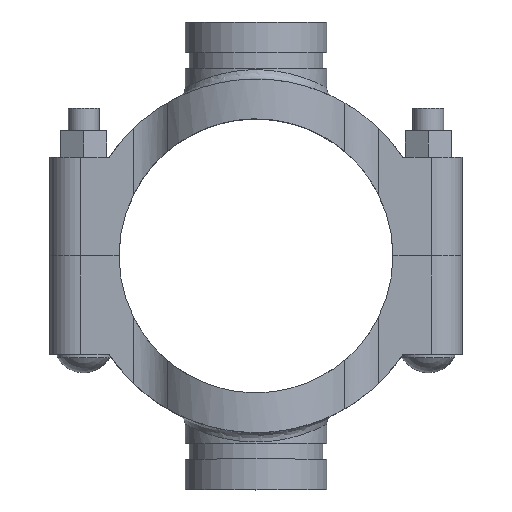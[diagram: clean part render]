
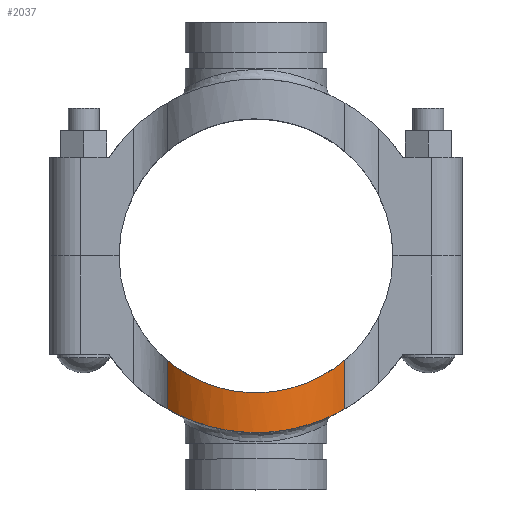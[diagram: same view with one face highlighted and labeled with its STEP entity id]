
A CAD part, top view. The second image highlights one B-rep face of the part: STEP entity #2037.
In plain terms, the highlighted cylindrical face has radius 58.801 mm (diameter 117.602 mm), a partial arc.
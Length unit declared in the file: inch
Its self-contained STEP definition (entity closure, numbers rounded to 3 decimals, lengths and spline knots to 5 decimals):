
#46=B_SPLINE_CURVE_WITH_KNOTS('',3,(#3913,#3914,#3915,#3916,#3917,#3918,
#3919,#3920,#3921,#3922,#3923,#3924,#3925,#3926,#3927,#3928,#3929,#3930,
#3931,#3932,#3933,#3934),.UNSPECIFIED.,.F.,.F.,(4,2,2,2,2,2,2,2,2,2,4),
(22.35652,23.01423,24.15853,25.30282,26.44711,
27.59141,28.7357,29.88,31.02429,32.16859,
32.8263),.UNSPECIFIED.);
#57=B_SPLINE_CURVE_WITH_KNOTS('',3,(#4241,#4242,#4243,#4244,#4245,#4246,
#4247,#4248,#4249,#4250,#4251,#4252,#4253,#4254,#4255,#4256,#4257,#4258,
#4259,#4260,#4261,#4262),.UNSPECIFIED.,.F.,.F.,(4,2,2,2,2,2,2,2,2,2,4),
(4.19691,4.89556,6.07013,7.24471,8.41929,
9.59386,10.76844,11.94301,13.11759,14.29216,
14.99081),.UNSPECIFIED.);
#107=CYLINDRICAL_SURFACE('',#2297,2.315);
#235=FACE_OUTER_BOUND('',#367,.T.);
#367=EDGE_LOOP('',(#1731,#1732,#1733,#1734));
#518=LINE('',#4333,#668);
#519=LINE('',#4335,#669);
#668=VECTOR('',#2828,0.3937);
#669=VECTOR('',#2831,0.3937);
#889=VERTEX_POINT('',#3899);
#890=VERTEX_POINT('',#3912);
#933=VERTEX_POINT('',#4227);
#934=VERTEX_POINT('',#4240);
#1130=EDGE_CURVE('',#890,#889,#46,.T.);
#1187=EDGE_CURVE('',#934,#933,#57,.T.);
#1218=EDGE_CURVE('',#933,#890,#518,.T.);
#1219=EDGE_CURVE('',#934,#889,#519,.T.);
#1731=ORIENTED_EDGE('',*,*,#1187,.T.);
#1732=ORIENTED_EDGE('',*,*,#1218,.T.);
#1733=ORIENTED_EDGE('',*,*,#1130,.T.);
#1734=ORIENTED_EDGE('',*,*,#1219,.F.);
#2037=ADVANCED_FACE('',(#235),#107,.T.);
#2297=AXIS2_PLACEMENT_3D('',#4334,#2829,#2830);
#2828=DIRECTION('',(0.,1.,0.));
#2829=DIRECTION('center_axis',(0.,1.,0.));
#2830=DIRECTION('ref_axis',(-0.779,0.,0.628));
#2831=DIRECTION('',(0.,1.,0.));
#3899=CARTESIAN_POINT('',(-1.80242,3.10474,1.45276));
#3912=CARTESIAN_POINT('',(1.80242,3.10474,1.45276));
#3913=CARTESIAN_POINT('Ctrl Pts',(1.80242,3.10474,1.45276));
#3914=CARTESIAN_POINT('Ctrl Pts',(1.74981,3.13528,1.51803));
#3915=CARTESIAN_POINT('Ctrl Pts',(1.69434,3.16567,1.57957));
#3916=CARTESIAN_POINT('Ctrl Pts',(1.53712,3.24622,1.73679));
#3917=CARTESIAN_POINT('Ctrl Pts',(1.42398,3.2982,1.83139));
#3918=CARTESIAN_POINT('Ctrl Pts',(1.17587,3.39457,1.99976));
#3919=CARTESIAN_POINT('Ctrl Pts',(1.04089,3.43892,2.07353));
#3920=CARTESIAN_POINT('Ctrl Pts',(0.75679,3.51239,2.19323));
#3921=CARTESIAN_POINT('Ctrl Pts',(0.60736,3.54155,2.23926));
#3922=CARTESIAN_POINT('Ctrl Pts',(0.30405,3.58037,2.30015));
#3923=CARTESIAN_POINT('Ctrl Pts',(0.15017,3.59,2.315));
#3924=CARTESIAN_POINT('Ctrl Pts',(-0.15017,3.59,2.315));
#3925=CARTESIAN_POINT('Ctrl Pts',(-0.30405,3.58037,2.30015));
#3926=CARTESIAN_POINT('Ctrl Pts',(-0.60736,3.54155,2.23926));
#3927=CARTESIAN_POINT('Ctrl Pts',(-0.75679,3.51239,2.19323));
#3928=CARTESIAN_POINT('Ctrl Pts',(-1.04089,3.43892,2.07353));
#3929=CARTESIAN_POINT('Ctrl Pts',(-1.17587,3.39457,1.99976));
#3930=CARTESIAN_POINT('Ctrl Pts',(-1.42398,3.2982,1.83139));
#3931=CARTESIAN_POINT('Ctrl Pts',(-1.53712,3.24622,1.73679));
#3932=CARTESIAN_POINT('Ctrl Pts',(-1.69434,3.16567,1.57957));
#3933=CARTESIAN_POINT('Ctrl Pts',(-1.74981,3.13528,1.51803));
#3934=CARTESIAN_POINT('Ctrl Pts',(-1.80242,3.10474,1.45276));
#4227=CARTESIAN_POINT('',(1.80242,2.1185,1.45276));
#4240=CARTESIAN_POINT('',(-1.80242,2.1185,1.45276));
#4241=CARTESIAN_POINT('Ctrl Pts',(-1.80242,2.1185,1.45276));
#4242=CARTESIAN_POINT('Ctrl Pts',(-1.75003,2.16307,1.51776));
#4243=CARTESIAN_POINT('Ctrl Pts',(-1.6946,2.20685,1.57931));
#4244=CARTESIAN_POINT('Ctrl Pts',(-1.54004,2.31935,1.73386));
#4245=CARTESIAN_POINT('Ctrl Pts',(-1.4296,2.39001,1.82684));
#4246=CARTESIAN_POINT('Ctrl Pts',(-1.18548,2.52002,1.99393));
#4247=CARTESIAN_POINT('Ctrl Pts',(-1.05178,2.57934,2.06803));
#4248=CARTESIAN_POINT('Ctrl Pts',(-0.76823,2.67751,2.18925));
#4249=CARTESIAN_POINT('Ctrl Pts',(-0.61804,2.71643,2.23647));
#4250=CARTESIAN_POINT('Ctrl Pts',(-0.311,2.76844,2.29936));
#4251=CARTESIAN_POINT('Ctrl Pts',(-0.15414,2.7815,2.315));
#4252=CARTESIAN_POINT('Ctrl Pts',(0.15414,2.7815,2.315));
#4253=CARTESIAN_POINT('Ctrl Pts',(0.311,2.76844,2.29936));
#4254=CARTESIAN_POINT('Ctrl Pts',(0.61804,2.71643,2.23647));
#4255=CARTESIAN_POINT('Ctrl Pts',(0.76823,2.67751,2.18925));
#4256=CARTESIAN_POINT('Ctrl Pts',(1.05178,2.57934,2.06803));
#4257=CARTESIAN_POINT('Ctrl Pts',(1.18548,2.52002,1.99393));
#4258=CARTESIAN_POINT('Ctrl Pts',(1.4296,2.39001,1.82684));
#4259=CARTESIAN_POINT('Ctrl Pts',(1.54004,2.31935,1.73386));
#4260=CARTESIAN_POINT('Ctrl Pts',(1.6946,2.20685,1.57931));
#4261=CARTESIAN_POINT('Ctrl Pts',(1.75003,2.16307,1.51776));
#4262=CARTESIAN_POINT('Ctrl Pts',(1.80242,2.1185,1.45276));
#4333=CARTESIAN_POINT('',(1.80242,0.,1.45276));
#4334=CARTESIAN_POINT('Origin',(0.,0.,0.));
#4335=CARTESIAN_POINT('',(-1.80242,0.,1.45276));
